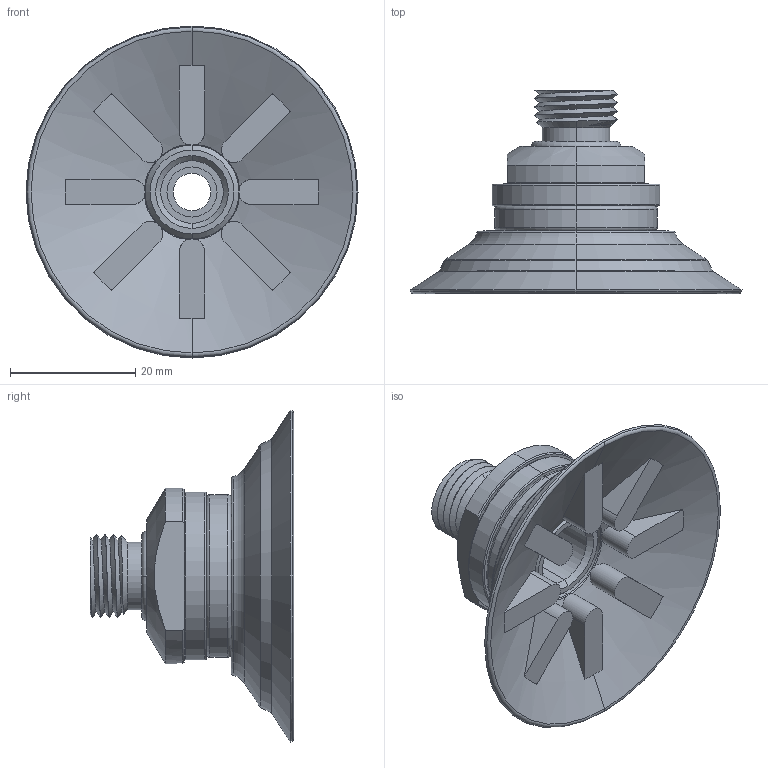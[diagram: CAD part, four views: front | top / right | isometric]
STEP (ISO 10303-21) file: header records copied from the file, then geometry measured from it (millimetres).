
FILE_DESCRIPTION (( 'STEP AP214' ), '1' );
FILE_NAME ('90_50--14D-2.step', '2024-12-12T07:27:19', ( '' ), ( '' ), 'SwSTEP 2.0', 'SolidWorks 2021', '' );
FILE_SCHEMA (( 'AUTOMOTIVE_DESIGN' ));
Length unit declared in the file: millimetre
Products named in the file (1): 90_50--14D-2
Bounding box: 53 x 32.5 x 53 mm (x, y, z)
Volume: 13787.8 mm3; surface area: 11223.7 mm2
Topology: 4 solids, 4 shells, 190 faces, 446 edges, 275 vertices
Faces by surface type: cylinder 72, torus 48, plane 45, cone 23, bspline 2
Entity records: 7538 total; most frequent: CARTESIAN_POINT 3115, DIRECTION 960, ORIENTED_EDGE 892, EDGE_CURVE 446, AXIS2_PLACEMENT_3D 420, VERTEX_POINT 275, CIRCLE 231, EDGE_LOOP 209
